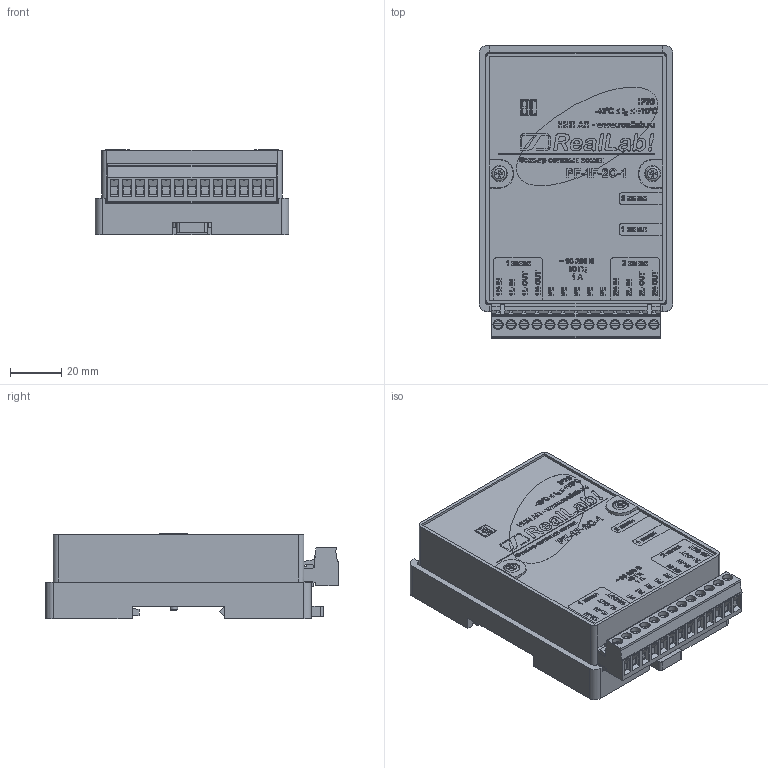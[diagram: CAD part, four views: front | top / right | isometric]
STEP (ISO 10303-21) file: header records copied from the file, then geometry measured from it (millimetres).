
FILE_DESCRIPTION(('STEP AP214'), '1');
FILE_NAME('PF-1F-2C-1, PF-1F-2C-3', '', ('UNSPECIFIED'), ('UNSPECIFIED'), 'C3D Converter', 'C3D Toolkit', '');
FILE_SCHEMA(('AUTOMOTIVE_DESIGN { 1 0 10303 214 3 1 1}'));
Length unit declared in the file: millimetre
Bounding box: 75.8 x 114.4 x 33.5 mm (x, y, z)
Volume: 76205.5 mm3; surface area: 87932.3 mm2
Topology: 2 solids, 15 shells, 4414 faces, 12015 edges, 7947 vertices
Faces by surface type: plane 2349, extrusion 1514, cylinder 394, torus 77, cone 55, bspline 25
Full cylindrical faces by diameter (mm): 0.4 x2, 0.8 x24, 0.9 x8, 1 x8, 1.4 x13, 1.6 x13, 2.5 x4, 3 x17, 3.38 x2, 3.5 x2, 3.6 x4, 3.95 x13, 4 x2, 5.6 x2, 6.3 x2, 6.4 x2, 8 x2
Entity records: 201100 total; most frequent: CARTESIAN_POINT 60806, ORIENTED_EDGE 23656, DIRECTION 16591, EDGE_CURVE 11828, VECTOR 8805, VERTEX_POINT 7946, LINE 7291, EDGE_LOOP 5086
